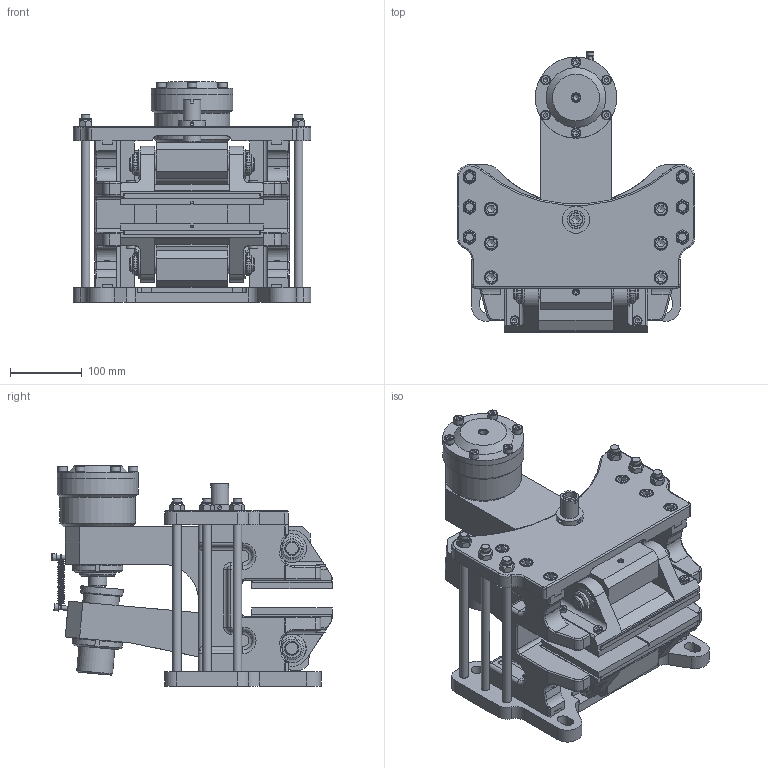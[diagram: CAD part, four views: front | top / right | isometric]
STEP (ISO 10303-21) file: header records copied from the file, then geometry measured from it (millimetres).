
FILE_DESCRIPTION(/* description */ ('','CAx-IF Rec.Pracs.---Representation and Presentation of Product Manufacturing Information (PMI)---4.0---2014-10-13'),/* implementation_level */ '2;1');
FILE_NAME(/* name */ 'X:\INVENTOR\DISEGNI\19_Pinze\STEP x Sito\OLEO-POSITIVE\19_26_700_04 POTP700_25,4.stp',/* time_stamp */ '2018-10-30T08:37:38+01:00',/* author */ ('stefano'),/* organization */ (''),/* preprocessor_version */ 'ST-DEVELOPER v17',/* originating_system */ 'Autodesk Inventor 2018',/* authorisation */ '');
FILE_SCHEMA (('AP242_MANAGED_MODEL_BASED_3D_ENGINEERING_MIM_LF { 1 0 10303 442 1 1 4 }'));
Products named in the file (1): 19_26_700_04 POTP700_25,4_Substitute_2
Bounding box: 330.02 x 390 x 306.1 mm (x, y, z)
Volume: 10274443.4 mm3; surface area: 1023279.8 mm2
Topology: 1 solids, 1 shells, 1511 faces, 4096 edges, 2677 vertices
Faces by surface type: plane 776, cylinder 399, cone 171, torus 129, bspline 24, sphere 12
Full cylindrical faces by diameter (mm): 1.2 x2, 3 x1, 5.188 x1, 5.25 x4, 6 x2, 8 x9, 8.376 x1, 8.5 x8, 8.917 x1, 9.188 x1, 10 x2, 10.106 x18, 11.445 x1, 12 x25, 12.5 x18, 13 x22, 13.5 x8, 14 x1, 15.3 x6, 17 x2, 18 x14, 19 x12, 19.5 x1, 20 x12, 22 x6, 25 x7, 28 x1, 33.6 x1, 38 x1, 50 x3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
Entity records: 55748 total; most frequent: CARTESIAN_POINT 16682, ORIENTED_EDGE 8106, DIRECTION 7991, EDGE_CURVE 4053, AXIS2_PLACEMENT_3D 3039, VERTEX_POINT 2677, LINE 1913, VECTOR 1913
